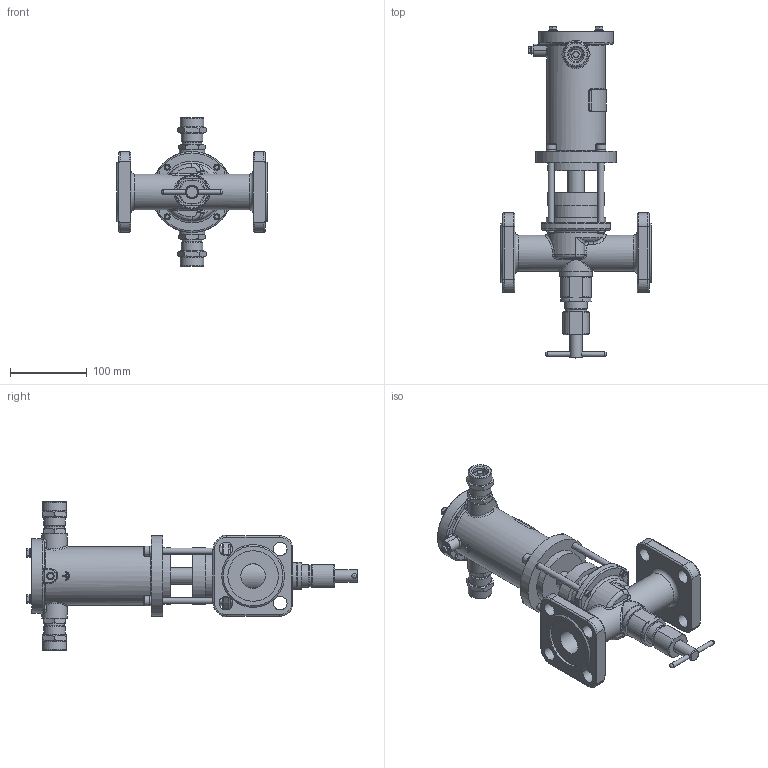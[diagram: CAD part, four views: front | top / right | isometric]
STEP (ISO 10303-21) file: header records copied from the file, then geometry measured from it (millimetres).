
FILE_DESCRIPTION(('STEP AP203'), '1');
FILE_NAME('ÑÅÍÑ-ÏÐ DN32PN25-200Ñ.stp', '2018-10-09T07:59:34', ('Îðëîâ Å.Â.'), ('ÎÎÎ ÍÏÏ Ñåíñîð'), 'ASCON STEP Converter 1.3', 'Kompas 3D', '');
FILE_SCHEMA(('CONFIG_CONTROL_DESIGN','SUPPORT_RESOURCE_SCHEMA'));
Length unit declared in the file: millimetre
Products named in the file (1): 32
Bounding box: 196 x 433.7 x 194 mm (x, y, z)
Volume: 1256993.4 mm3; surface area: 362364.1 mm2
Topology: 3 solids, 20 shells, 2001 faces, 5270 edges, 3414 vertices
Faces by surface type: cylinder 1019, plane 730, cone 132, torus 52, bspline 50, extrusion 16, sphere 2
Full cylindrical faces by diameter (mm): 3.5 x2, 4.134 x1, 4.917 x4, 5 x1, 6 x13, 6.2 x1, 6.5 x4, 8 x12, 8.2 x1, 9 x5, 10 x1, 11 x1, 12 x4, 13 x6, 16 x3, 17 x2, 18 x9, 18.632 x2, 19.9 x1, 20 x2, 21 x1, 22 x3, 22.376 x2, 23 x1, 23.5 x2, 24 x2, 24.5 x2, 26 x4, 26.376 x2, 27.8 x1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
Entity records: 76583 total; most frequent: CARTESIAN_POINT 26109, DIRECTION 10931, ORIENTED_EDGE 10466, EDGE_CURVE 5233, AXIS2_PLACEMENT_3D 4207, VERTEX_POINT 3406, VECTOR 2517, LINE 2501
